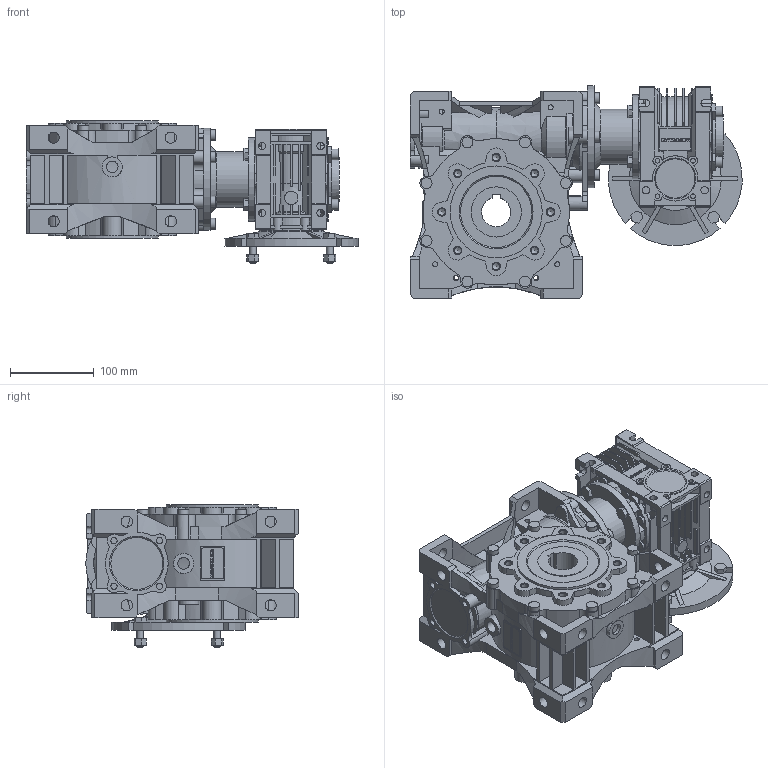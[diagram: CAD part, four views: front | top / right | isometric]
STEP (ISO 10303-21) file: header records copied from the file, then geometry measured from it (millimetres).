
FILE_DESCRIPTION(/* description */ ('STEP AP214'),/* implementation_level */ '2;1');
FILE_NAME(/* name */ 'NMRVP-NMRVP 050-090 100 (10x10) BS1 160x14 25 NO 35 NO NO - - NO - - - NO NO - --(--------)',/* time_stamp */ '2024-10-24T14:37:18+02:00',/* author */ ('License CC BY-ND 4.0'),/* organization */ ('CADENAS'),/* preprocessor_version */ 'ST-DEVELOPER v19.3',/* originating_system */ 'PARTsolutions',/* authorisation */ ' ');
FILE_SCHEMA (('AUTOMOTIVE_DESIGN {1 0 10303 214 3 1 1}'));
Products named in the file (11): NMRVP-NMRVP 050-090 100 (10x10) BS1 160x14 25 NO 35 NO NO - - NO - - 
- NO NO - --(--------); W.090.01.M; 090-35 (140); W.090.14.24.M-p; 050-090-TRA; W.050.01.M; 050-25 (92); VB 050-14 (14)-p; 5071 B5; Corona 50-p; 90-50
Assembly tree (10 placements, depth 2):
  NMRVP-NMRVP 050-090 100 (10x10) BS1 160x14 25 NO 35 NO NO - - NO - - 
- NO NO - --(--------)
    W.090.01.M
    090-35 (140)
    W.090.14.24.M-p
    050-090-TRA
    W.050.01.M
    050-25 (92)
    VB 050-14 (14)-p
    5071 B5
    Corona 50-p
    90-50
Bounding box: 396.77 x 254 x 170 mm (x, y, z)
Volume: 5822505.1 mm3; surface area: 795423.2 mm2
Topology: 10 solids, 17 shells, 2238 faces, 6023 edges, 3967 vertices
Faces by surface type: plane 1350, cylinder 732, cone 152, torus 4
Full cylindrical faces by diameter (mm): 3.775 x3, 5.55 x4, 6 x12, 6.647 x8, 7.45 x12, 8 x8, 8.376 x16, 8.8 x8, 10 x14, 13 x18, 13.4 x14, 14 x4, 16 x1, 24 x2, 28 x2, 29 x1, 31 x1, 34 x1, 40 x2, 45 x1, 47 x2, 50 x3, 55 x1, 58 x1, 60 x1, 66 x1, 70 x3, 75 x2, 76 x1, 90 x2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
Entity records: 84722 total; most frequent: CARTESIAN_POINT 13281, DIRECTION 11654, ORIENTED_EDGE 11444, EDGE_CURVE 5722, AXIS2_PLACEMENT_3D 4082, VERTEX_POINT 3916, LINE 3490, VECTOR 3490
